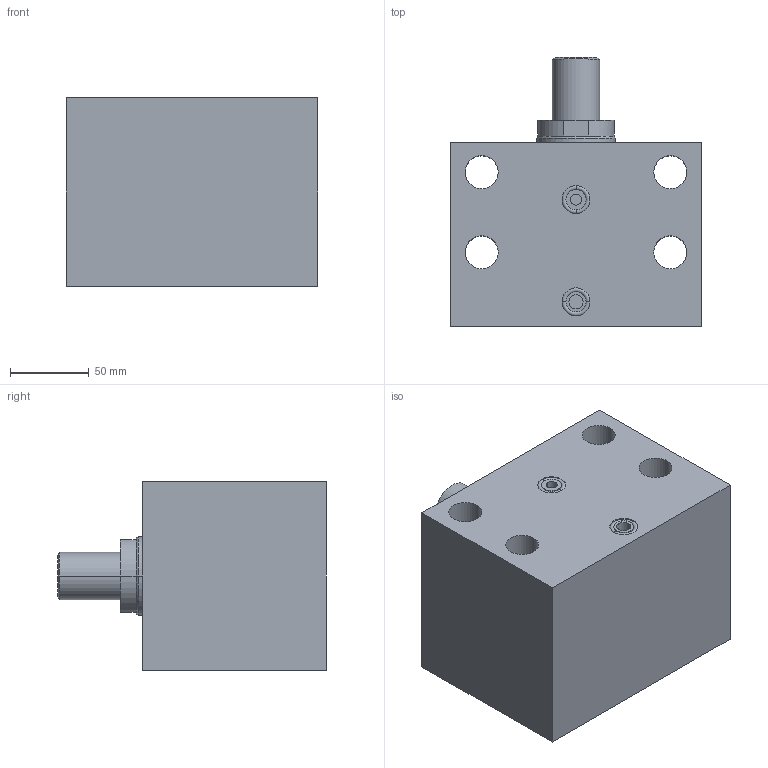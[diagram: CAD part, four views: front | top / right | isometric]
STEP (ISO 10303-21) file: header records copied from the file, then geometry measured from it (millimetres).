
FILE_DESCRIPTION (( 'STEP AP203' ), '1' );
FILE_NAME ('GERMA_Blockzylinder_603-080-032-A.STEP', '2016-01-25T09:43:36', ( '' ), ( '' ), 'SwSTEP 2.0', 'SolidWorks 2015', '' );
FILE_SCHEMA (( 'CONFIG_CONTROL_DESIGN' ));
Length unit declared in the file: millimetre
Products named in the file (3): GH-600-080_GH-603-080-032; Kolben 60x-080_Kolben DU.80-Hub32-AG; GERMA_Blockzylinder_603-080-032-A
Assembly tree (2 placements, depth 2):
  GERMA_Blockzylinder_603-080-032-A
    GH-600-080_GH-603-080-032
    Kolben 60x-080_Kolben DU.80-Hub32-AG
Bounding box: 160 x 171 x 120 mm (x, y, z)
Volume: 2034480.1 mm3; surface area: 196359.2 mm2
Topology: 2 solids, 2 shells, 77 faces, 166 edges, 101 vertices
Faces by surface type: cylinder 39, plane 22, cone 12, torus 4
Entity records: 2402 total; most frequent: DIRECTION 419, CARTESIAN_POINT 345, ORIENTED_EDGE 324, AXIS2_PLACEMENT_3D 175, EDGE_CURVE 162, VERTEX_POINT 101, EDGE_LOOP 97, CIRCLE 93
